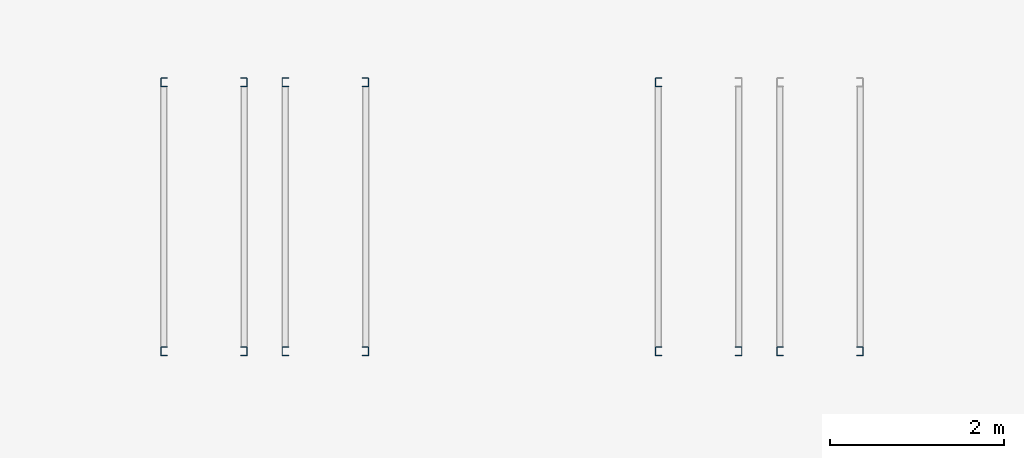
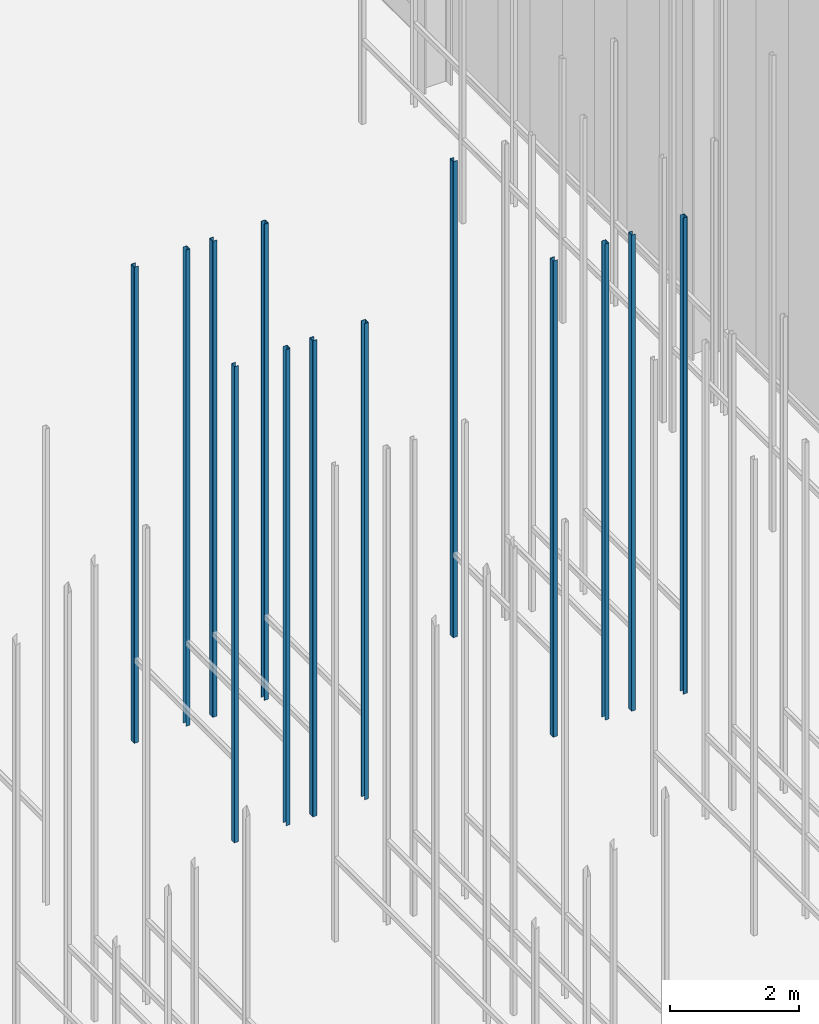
# One storey, part 37 of 302: 13 columns.
"""IFC2X3 building model written with IfcOpenShell, lengths in metres."""

import ifcopenshell
import ifcopenshell.guid

model = None  # the IFC model being written
_history = None  # IfcOwnerHistory: only IFC2X3 demands one
_inside = {}  # id of a spatial element -> (the spatial element, [elements in it])
_under = {}  # id of a project, library or spatial element -> (it, [spatial elements below it])
_declared = {}  # id of a project -> (the project, [libraries it declares])
_typed = {}  # id of a type object -> (the type object, [elements of that type])
_made_of = {}  # id of a material, layer set ... -> (it, [elements and type objects made of it])


def new_model(schema):
    """Start an empty IFC model of exactly this schema.

    Asked for "IFC4X3", IfcOpenShell would pick the latest addendum, in which some entities
    have other attributes; the version numbers below select the first issue.
    IFC2X3 requires an IfcOwnerHistory on every rooted entity: one is made here for all.
    """
    global model, _history
    if schema == "IFC4X3":
        model = ifcopenshell.file(schema_version=(4, 3, 0, 0))
    else:
        model = ifcopenshell.file(schema=schema)
    _inside.clear()
    _under.clear()
    _declared.clear()
    _typed.clear()
    _made_of.clear()
    _history = None
    if model.schema == "IFC2X3":
        org = make("IfcOrganization", Name="unknown")
        user = make(
            "IfcPersonAndOrganization",
            ThePerson=make("IfcPerson", FamilyName="unknown"),
            TheOrganization=org,
        )
        app = make(
            "IfcApplication",
            ApplicationDeveloper=org,
            Version="unknown",
            ApplicationFullName="unknown",
            ApplicationIdentifier="unknown",
        )
        _history = make(
            "IfcOwnerHistory",
            OwningUser=user,
            OwningApplication=app,
            ChangeAction="ADDED",
            CreationDate=0,
        )
    return model


def make(cls, **values):
    """One entity of the class cls with the attributes given. An attribute that is None is left unset."""
    return model.create_entity(
        cls, **{name: value for name, value in values.items() if value is not None}
    )


def entity(cls, *values):
    """Any entity or typed value of the class cls, its attributes in the order of the schema. None: left unset."""
    e = model.create_entity(cls)
    for i, value in enumerate(values):
        if value is not None:
            e[i] = value
    return e


def rooted(cls, **values):
    """An entity with a GlobalId (a new one), such as an element, a storey or a relation."""
    return make(cls, GlobalId=ifcopenshell.guid.new(), OwnerHistory=_history, **values)


def si_unit(unit_type, name, prefix=None):
    """IfcSIUnit, for example si_unit("LENGTHUNIT", "METRE", prefix="MILLI")."""
    return make("IfcSIUnit", UnitType=unit_type, Prefix=prefix, Name=name)


def converted_unit(unit_type, name, factor, base, dimensions=None, offset=None):
    """IfcConversionBasedUnit, such as the inch: factor (a typed value) times the base unit."""
    return make(
        "IfcConversionBasedUnit"
        if offset is None
        else "IfcConversionBasedUnitWithOffset",
        ConversionOffset=offset,
        Dimensions=None
        if dimensions is None
        else entity("IfcDimensionalExponents", *dimensions),
        UnitType=unit_type,
        Name=name,
        ConversionFactor=make(
            "IfcMeasureWithUnit", ValueComponent=factor, UnitComponent=base
        ),
    )


def derived_unit(unit_type, elements):
    """IfcDerivedUnit: a product of units, each with its exponent."""
    return make(
        "IfcDerivedUnit",
        Elements=[
            make("IfcDerivedUnitElement", Unit=unit, Exponent=power)
            for unit, power in elements
        ],
        UnitType=unit_type,
    )


def assignment(units):
    """IfcUnitAssignment: the units of a project."""
    return None if units is None else make("IfcUnitAssignment", Units=units)


def point(xyz):
    """IfcCartesianPoint."""
    return None if xyz is None else make("IfcCartesianPoint", Coordinates=xyz)


def direction(xyz):
    """IfcDirection."""
    return None if xyz is None else make("IfcDirection", DirectionRatios=xyz)


def frame(location, z_axis=None, x_axis=None):
    """IfcAxis2Placement3D, a coordinate frame: its origin and axes. An axis left out is left unset."""
    return make(
        "IfcAxis2Placement3D",
        Location=point(location),
        Axis=direction(z_axis),
        RefDirection=direction(x_axis),
    )


def frame_2d(location, x_axis=None):
    """IfcAxis2Placement2D, a coordinate frame in the plane: its origin and x axis."""
    return make(
        "IfcAxis2Placement2D", Location=point(location), RefDirection=direction(x_axis)
    )


def origin():
    """The frame at (0, 0, 0) with its axes left unset."""
    return frame((0.0, 0.0, 0.0))


def place(relative_to, where):
    """IfcLocalPlacement: puts the frame where relative to a parent placement (None: the world)."""
    return make(
        "IfcLocalPlacement", PlacementRelTo=relative_to, RelativePlacement=where
    )


def context(
    kind, dimensions, precision=None, world=None, true_north=None, identifier=None
):
    """IfcGeometricRepresentationContext, for example the 3D "Model" context."""
    return make(
        "IfcGeometricRepresentationContext",
        ContextIdentifier=identifier,
        ContextType=kind,
        CoordinateSpaceDimension=dimensions,
        Precision=precision,
        WorldCoordinateSystem=world,
        TrueNorth=true_north,
    )


def subcontext(parent, identifier, kind, view, scale=None):
    """IfcGeometricRepresentationSubContext, for example "Body" below "Model"."""
    return make(
        "IfcGeometricRepresentationSubContext",
        ContextIdentifier=identifier,
        ContextType=kind,
        ParentContext=parent,
        TargetScale=scale,
        TargetView=view,
    )


def project(units=None, contexts=None):
    """IfcProject with its units and contexts."""
    return rooted(
        "IfcProject",
        Name="project",
        RepresentationContexts=contexts,
        UnitsInContext=assignment(units),
    )


def spatial(cls, under=None, at=None, **own):
    """A site, building, storey or space (cls), placed at a placement, below another one or the project."""
    s = rooted(cls, ObjectPlacement=at, **own)
    if under is not None:
        _under.setdefault(under.id(), (under, []))[1].append(s)
    return s


def polyline(points):
    """IfcPolyline through the points."""
    return make("IfcPolyline", Points=[point(p) for p in points])


def circle_curve(where, radius):
    """IfcCircle in the frame where."""
    return make("IfcCircle", Position=where, Radius=radius)


def parameter(value):
    """IfcParameterValue: where a trimmed curve begins or ends, as a parameter of its basis curve."""
    return model.create_entity("IfcParameterValue", value)


def trimmed(basis, trim1, trim2, sense, master):
    """IfcTrimmedCurve: the piece of a basis curve between two trims."""
    return make(
        "IfcTrimmedCurve",
        BasisCurve=basis,
        Trim1=trim1,
        Trim2=trim2,
        SenseAgreement=sense,
        MasterRepresentation=master,
    )


def segment(curve, same_sense, transition):
    """IfcCompositeCurveSegment."""
    return make(
        "IfcCompositeCurveSegment",
        Transition=transition,
        SameSense=same_sense,
        ParentCurve=curve,
    )


def composite_curve(segments, self_intersect=None):
    """IfcCompositeCurve: segments joined end to end."""
    return make("IfcCompositeCurve", Segments=segments, SelfIntersect=self_intersect)


def outline(outer, holes=None, kind="AREA"):
    """IfcArbitraryClosedProfileDef: a profile drawn as a closed curve; with holes, ...WithVoids."""
    if holes is None:
        return make("IfcArbitraryClosedProfileDef", ProfileType=kind, OuterCurve=outer)
    return make(
        "IfcArbitraryProfileDefWithVoids",
        ProfileType=kind,
        OuterCurve=outer,
        InnerCurves=holes,
    )


def extrude(swept, where, along, depth):
    """IfcExtrudedAreaSolid: the profile swept, set in the frame where, extruded along a direction by depth."""
    return make(
        "IfcExtrudedAreaSolid",
        SweptArea=swept,
        Position=where,
        ExtrudedDirection=direction(along),
        Depth=depth,
    )


def shape(context_of_items, identifier, shape_type, items):
    """IfcShapeRepresentation: the items that make up one representation, for example the "Body"."""
    return make(
        "IfcShapeRepresentation",
        ContextOfItems=context_of_items,
        RepresentationIdentifier=identifier,
        RepresentationType=shape_type,
        Items=items,
    )


def source(mapping_origin, context_of_items, identifier, shape_type, items):
    """IfcRepresentationMap: a shape defined once, which mapped items show again and again."""
    return make(
        "IfcRepresentationMap",
        MappingOrigin=mapping_origin,
        MappedRepresentation=shape(context_of_items, identifier, shape_type, items),
    )


def transform(
    local_origin,
    x_axis=None,
    y_axis=None,
    z_axis=None,
    scale=None,
    scale2=None,
    scale3=None,
    uniform=True,
):
    """IfcCartesianTransformationOperator3D, or its non-uniform kind. x_axis, y_axis, z_axis: its Axis1, 2, 3."""
    if uniform:
        return make(
            "IfcCartesianTransformationOperator3D",
            Axis1=direction(x_axis),
            Axis2=direction(y_axis),
            LocalOrigin=point(local_origin),
            Scale=scale,
            Axis3=direction(z_axis),
        )
    return make(
        "IfcCartesianTransformationOperator3DnonUniform",
        Axis1=direction(x_axis),
        Axis2=direction(y_axis),
        LocalOrigin=point(local_origin),
        Scale=scale,
        Axis3=direction(z_axis),
        Scale2=scale2,
        Scale3=scale3,
    )


def mapped(mapping_source, mapping_target):
    """IfcMappedItem: shows the shape of a source again, moved by a transform."""
    return make(
        "IfcMappedItem", MappingSource=mapping_source, MappingTarget=mapping_target
    )


def material(Name=None, Category=None):
    """IfcMaterial."""
    return make("IfcMaterial", Name=Name, Category=Category)


def made_of(thing, what):
    """Note that an element or type object is made of a material, layer set ...; save() writes the relation."""
    if what is not None:
        _made_of.setdefault(what.id(), (what, []))[1].append(thing)
    return thing


def type_object(cls, material=None, **own):
    """A type object (cls), such as IfcWallType, which elements share."""
    return made_of(rooted(cls, **own), material)


def type_shapes(of_type, sources):
    """Give a type object the sources (RepresentationMaps) that its elements show as mapped items."""
    of_type.RepresentationMaps = sources


def element(
    cls,
    number,
    at=None,
    inside=None,
    cuts=None,
    type_object=None,
    material=None,
    context=None,
    identifier="Body",
    shape_type=None,
    held_by="IfcProductDefinitionShape",
    body=None,
    shapes=None,
    **own,
):
    """One element of the class cls, such as IfcWall. Its Tag is "e" and its number.

    at: its placement. inside: the storey or other place that contains it. cuts: it is an
    opening in that element (IfcRelVoidsElement). A single representation is given by context,
    identifier, shape_type and body (its items); several are given by shapes. held_by: the class
    of the entity that holds the representations. save() writes the other relations.
    """
    e = rooted(cls, Tag="e%d" % number, ObjectPlacement=at, **own)
    if body is not None:
        shapes = [shape(context, identifier, shape_type, body)]
    if shapes is not None:
        e.Representation = make(held_by, Representations=shapes)
    if inside is not None:
        _inside.setdefault(inside.id(), (inside, []))[1].append(e)
    if cuts is not None:
        rooted(
            "IfcRelVoidsElement", RelatingBuildingElement=cuts, RelatedOpeningElement=e
        )
    if type_object is not None:
        _typed.setdefault(type_object.id(), (type_object, []))[1].append(e)
    return made_of(e, material)


def aggregate(whole, parts):
    """IfcRelAggregates: a whole, such as a stair, and the parts it consists of."""
    return rooted("IfcRelAggregates", RelatingObject=whole, RelatedObjects=parts)


def save(model, path):
    """Write the relations noted so far, then the file.

    IfcRelAggregates (storeys below a building ...), IfcRelContainedInSpatialStructure (elements
    in a storey), IfcRelDefinesByType, IfcRelAssociatesMaterial and IfcRelDeclares: one each for
    every whole, place, type object, material and project.
    """
    for whole, parts in _under.values():
        aggregate(whole, parts)
    for where, things in _inside.values():
        rooted(
            "IfcRelContainedInSpatialStructure",
            RelatedElements=things,
            RelatingStructure=where,
        )
    for kind, things in _typed.values():
        rooted("IfcRelDefinesByType", RelatedObjects=things, RelatingType=kind)
    for what, things in _made_of.values():
        rooted("IfcRelAssociatesMaterial", RelatedObjects=things, RelatingMaterial=what)
    for by, libraries in _declared.values():
        rooted("IfcRelDeclares", RelatingContext=by, RelatedDefinitions=libraries)
    model.write(path)


model = new_model("IFC2X3")

# Units and contexts
model_context = context("Model", 3, precision=1e-05, world=origin(), true_north=direction((6.12303176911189e-17, 1.0)))
body_context = subcontext(model_context, "Body", "Model", "MODEL_VIEW")
ifc_project = project(units=[si_unit("LENGTHUNIT", "METRE"), si_unit("AREAUNIT", "SQUARE_METRE"), si_unit("VOLUMEUNIT", "CUBIC_METRE"), converted_unit("PLANEANGLEUNIT", "DEGREE", entity("IfcRatioMeasure", 0.0174532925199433), si_unit("PLANEANGLEUNIT", "RADIAN"), dimensions=[0, 0, 0, 0, 0, 0, 0]), si_unit("MASSUNIT", "GRAM", prefix="KILO"), derived_unit("MASSDENSITYUNIT", [(si_unit("MASSUNIT", "GRAM", prefix="KILO"), 1), (si_unit("LENGTHUNIT", "METRE"), -3)]), derived_unit("MOMENTOFINERTIAUNIT", [(si_unit("LENGTHUNIT", "METRE"), 4)]), si_unit("TIMEUNIT", "SECOND"), si_unit("FREQUENCYUNIT", "HERTZ"), si_unit("THERMODYNAMICTEMPERATUREUNIT", "DEGREE_CELSIUS"), derived_unit("THERMALTRANSMITTANCEUNIT", [(si_unit("MASSUNIT", "GRAM", prefix="KILO"), 1), (si_unit("THERMODYNAMICTEMPERATUREUNIT", "KELVIN"), -1), (si_unit("TIMEUNIT", "SECOND"), -3)]), derived_unit("VOLUMETRICFLOWRATEUNIT", [(si_unit("LENGTHUNIT", "METRE"), 3), (si_unit("TIMEUNIT", "SECOND"), -1)]), si_unit("ELECTRICCURRENTUNIT", "AMPERE"), si_unit("ELECTRICVOLTAGEUNIT", "VOLT"), si_unit("POWERUNIT", "WATT"), si_unit("FORCEUNIT", "NEWTON", prefix="KILO"), si_unit("ILLUMINANCEUNIT", "LUX"), si_unit("LUMINOUSFLUXUNIT", "LUMEN"), si_unit("LUMINOUSINTENSITYUNIT", "CANDELA"), derived_unit("USERDEFINED", [(si_unit("MASSUNIT", "GRAM", prefix="KILO"), -1), (si_unit("LENGTHUNIT", "METRE"), -2), (si_unit("TIMEUNIT", "SECOND"), 3), (si_unit("LUMINOUSFLUXUNIT", "LUMEN"), 1)]), derived_unit("LINEARVELOCITYUNIT", [(si_unit("LENGTHUNIT", "METRE"), 1), (si_unit("TIMEUNIT", "SECOND"), -1)]), si_unit("PRESSUREUNIT", "PASCAL"), derived_unit("USERDEFINED", [(si_unit("LENGTHUNIT", "METRE"), -2), (si_unit("MASSUNIT", "GRAM", prefix="KILO"), 1), (si_unit("TIMEUNIT", "SECOND"), -2)]), derived_unit("LINEARFORCEUNIT", [(si_unit("MASSUNIT", "GRAM", prefix="KILO"), 1), (si_unit("LENGTHUNIT", "METRE"), 1), (si_unit("TIMEUNIT", "SECOND"), -2), (si_unit("LENGTHUNIT", "METRE"), -1)]), derived_unit("PLANARFORCEUNIT", [(si_unit("MASSUNIT", "GRAM", prefix="KILO"), 1), (si_unit("LENGTHUNIT", "METRE"), 1), (si_unit("TIMEUNIT", "SECOND"), -2), (si_unit("LENGTHUNIT", "METRE"), -2)])], contexts=[model_context])

# Site, building, storey
site_placement = place(None, origin())
site = spatial("IfcSite", under=ifc_project, at=site_placement, Name="Default", CompositionType="ELEMENT")
building_placement = place(site_placement, origin())
building = spatial("IfcBuilding", under=site, at=building_placement, CompositionType="ELEMENT")
storey_placement = place(building_placement, frame((0.0, 0.0, -1.3)))
storey = spatial("IfcBuildingStorey", under=building, at=storey_placement, Name="00_EG", CompositionType="ELEMENT", Elevation=-1.3)

# Columns
ifc_material = material(Name="Metall - Baustahl S235")
column_type_1 = type_object("IfcColumnType", Name="Leichter Stahl Schlossschrauben Stütze:C 100", PredefinedType="COLUMN", material=ifc_material)
shared_shape_1 = source(origin(), body_context, "Body", "SweptSolid", [
    extrude(outline(composite_curve([segment(polyline([(-0.0469749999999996, -0.0499999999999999), (0.0214500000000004, -0.0499999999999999)]), True, "CONTINUOUS"), segment(trimmed(circle_curve(frame_2d((0.0214500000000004, -0.0434249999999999), x_axis=(0.0, -1.0)), 0.00657500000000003), [parameter(0.0)], [parameter(89.9999999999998)], True, "PARAMETER"), True, "CONTINUOUS"), segment(polyline([(0.0280250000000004, -0.0434249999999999), (0.0280250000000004, 0.0434250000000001)]), True, "CONTINUOUS"), segment(trimmed(circle_curve(frame_2d((0.0214500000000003, 0.0434250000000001), x_axis=(1.0, 0.0)), 0.0065750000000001), [parameter(0.0)], [parameter(89.9999999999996)], True, "PARAMETER"), True, "CONTINUOUS"), segment(polyline([(0.0214500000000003, 0.0500000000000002), (-0.0469750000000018, 0.0500000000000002)]), True, "CONTINUOUS"), segment(polyline([(-0.0469750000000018, 0.0500000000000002), (-0.0469750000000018, 0.0450000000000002)]), True, "CONTINUOUS"), segment(polyline([(-0.0469750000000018, 0.0450000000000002), (0.0214500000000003, 0.0450000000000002)]), True, "CONTINUOUS"), segment(trimmed(circle_curve(frame_2d((0.0214500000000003, 0.0434249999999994), x_axis=(0.0, 1.0)), 0.00157500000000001), [parameter(269.999999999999)], [parameter(0.0)], True, "PARAMETER"), False, "CONTINUOUS"), segment(polyline([(0.0230250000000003, 0.0434249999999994), (0.0230250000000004, -0.0434249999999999)]), True, "CONTINUOUS"), segment(trimmed(circle_curve(frame_2d((0.0214500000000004, -0.0434249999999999), x_axis=(1.0, 0.0)), 0.00157500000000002), [parameter(270.0)], [parameter(0.0)], True, "PARAMETER"), False, "CONTINUOUS"), segment(polyline([(0.0214500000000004, -0.0449999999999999), (-0.0469749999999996, -0.0449999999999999)]), True, "CONTINUOUS"), segment(polyline([(-0.0469749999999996, -0.0449999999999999), (-0.0469749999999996, -0.0499999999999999)]), True, "CONTINUOUS")], self_intersect=False)), frame((0.0499999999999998, 0.0280250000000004, -0.0300000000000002), z_axis=(0.0, 0.0, 1.0), x_axis=(0.0, -1.0, 0.0)), (0.0, 0.0, 1.0), 9.0),
])
type_shapes(column_type_1, [shared_shape_1])
for number, where, z_axis, x_axis in (
    (1, (-190.790111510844, 48.848088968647, 1.3), (0.0, 0.0, 1.0), (0.0, -1.0, 0.0)),
    (2, (-190.790111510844, 51.948088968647, 1.3), (0.0, 0.0, 1.0), (0.0, -1.0, 0.0)),
    (3, (-189.390111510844, 48.848088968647, 1.3), (0.0, 0.0, 1.0), (0.0, -1.0, 0.0)),
    (4, (-189.390111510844, 51.948088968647, 1.3), (0.0, 0.0, 1.0), (0.0, -1.0, 0.0)),
    (5, (-185.090111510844, 48.848088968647, 1.3), (0.0, 0.0, 1.0), (0.0, -1.0, 0.0)),
    (6, (-185.090111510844, 51.948088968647, 1.3), (0.0, 0.0, 1.0), (0.0, -1.0, 0.0)),
    (7, (-183.690111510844, 48.848088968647, 1.3), (0.0, 0.0, 1.0), (0.0, -1.0, 0.0)),
):
    element("IfcColumn", number, at=place(storey_placement, frame(where, z_axis=z_axis, x_axis=x_axis)), inside=storey, type_object=column_type_1, material=ifc_material, Name="Leichter Stahl Schlossschrauben Stütze:C 100", ObjectType="Leichter Stahl Schlossschrauben Stütze:C 100", context=body_context, shape_type="MappedRepresentation", body=[
        mapped(shared_shape_1, transform((0.0, 0.0, 0.0), scale=1.0)),
    ])
column_type_2 = type_object("IfcColumnType", Name="Leichter Stahl Schlossschrauben Stütze:C 100", PredefinedType="COLUMN", material=ifc_material)
shared_shape_2 = source(origin(), body_context, "Body", "SweptSolid", [
    extrude(outline(composite_curve([segment(polyline([(-0.0214500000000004, -0.0499999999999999), (0.0469749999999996, -0.0499999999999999)]), True, "CONTINUOUS"), segment(polyline([(0.0469749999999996, -0.0499999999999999), (0.0469749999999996, -0.0449999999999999)]), True, "CONTINUOUS"), segment(polyline([(0.0469749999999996, -0.0449999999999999), (-0.0214500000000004, -0.045)]), True, "CONTINUOUS"), segment(trimmed(circle_curve(frame_2d((-0.0214500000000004, -0.043425), x_axis=(0.0, -1.0)), 0.00157500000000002), [parameter(270.0)], [parameter(0.0)], True, "PARAMETER"), False, "CONTINUOUS"), segment(polyline([(-0.0230250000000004, -0.0434249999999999), (-0.0230250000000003, 0.0434249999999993)]), True, "CONTINUOUS"), segment(trimmed(circle_curve(frame_2d((-0.0214500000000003, 0.0434249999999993), x_axis=(-1.0, 0.0)), 0.00157500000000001), [parameter(269.999999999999)], [parameter(0.0)], True, "PARAMETER"), False, "CONTINUOUS"), segment(polyline([(-0.0214500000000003, 0.0450000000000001), (0.0469750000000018, 0.0450000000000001)]), True, "CONTINUOUS"), segment(polyline([(0.0469750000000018, 0.0450000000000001), (0.0469750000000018, 0.0500000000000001)]), True, "CONTINUOUS"), segment(polyline([(0.0469750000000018, 0.0500000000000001), (-0.0214500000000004, 0.0500000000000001)]), True, "CONTINUOUS"), segment(trimmed(circle_curve(frame_2d((-0.0214500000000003, 0.043425), x_axis=(0.0, 1.0)), 0.0065750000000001), [parameter(0.0)], [parameter(89.9999999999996)], True, "PARAMETER"), True, "CONTINUOUS"), segment(polyline([(-0.0280250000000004, 0.043425), (-0.0280250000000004, -0.043425)]), True, "CONTINUOUS"), segment(trimmed(circle_curve(frame_2d((-0.0214500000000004, -0.0434249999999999), x_axis=(-1.0, 0.0)), 0.00657500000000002), [parameter(0.0)], [parameter(89.9999999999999)], True, "PARAMETER"), True, "CONTINUOUS")], self_intersect=False)), frame((0.0499999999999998, -0.0280250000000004, -0.0300000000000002), z_axis=(0.0, 0.0, 1.0), x_axis=(0.0, -1.0, 0.0)), (0.0, 0.0, 1.0), 9.0),
])
type_shapes(column_type_2, [shared_shape_2])
for number, where, z_axis, x_axis in (
    (8, (-189.790111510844, 48.848088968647, 1.3), (0.0, 0.0, 1.0), (0.0, -1.0, 0.0)),
    (9, (-189.790111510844, 51.948088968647, 1.3), (0.0, 0.0, 1.0), (0.0, -1.0, 0.0)),
    (10, (-188.390111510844, 48.848088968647, 1.3), (0.0, 0.0, 1.0), (0.0, -1.0, 0.0)),
    (11, (-188.390111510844, 51.948088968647, 1.3), (0.0, 0.0, 1.0), (0.0, -1.0, 0.0)),
    (12, (-184.090111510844, 48.848088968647, 1.3), (0.0, 0.0, 1.0), (0.0, -1.0, 0.0)),
    (13, (-182.690111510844, 48.848088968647, 1.3), (0.0, 0.0, 1.0), (0.0, -1.0, 0.0)),
):
    element("IfcColumn", number, at=place(storey_placement, frame(where, z_axis=z_axis, x_axis=x_axis)), inside=storey, type_object=column_type_2, material=ifc_material, Name="Leichter Stahl Schlossschrauben Stütze:C 100", ObjectType="Leichter Stahl Schlossschrauben Stütze:C 100", context=body_context, shape_type="MappedRepresentation", body=[
        mapped(shared_shape_2, transform((0.0, 0.0, 0.0), scale=1.0)),
    ])

save(model, "model.ifc")
